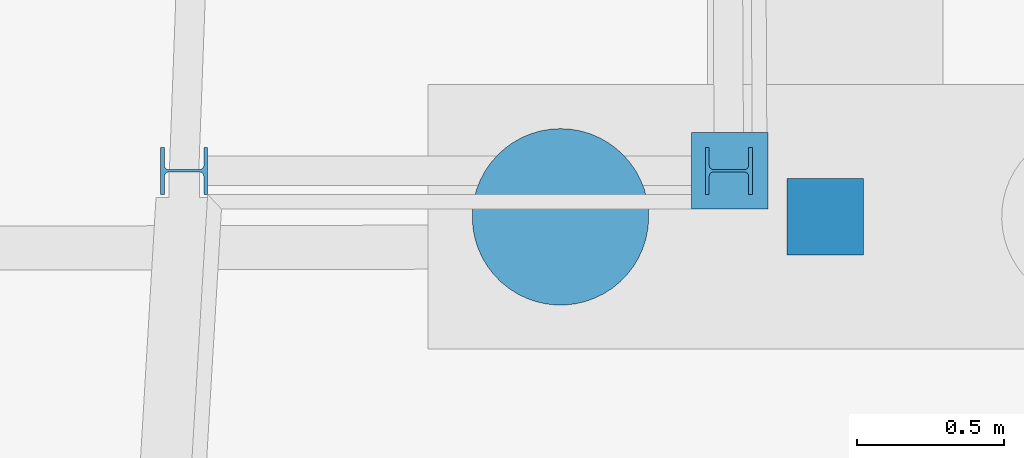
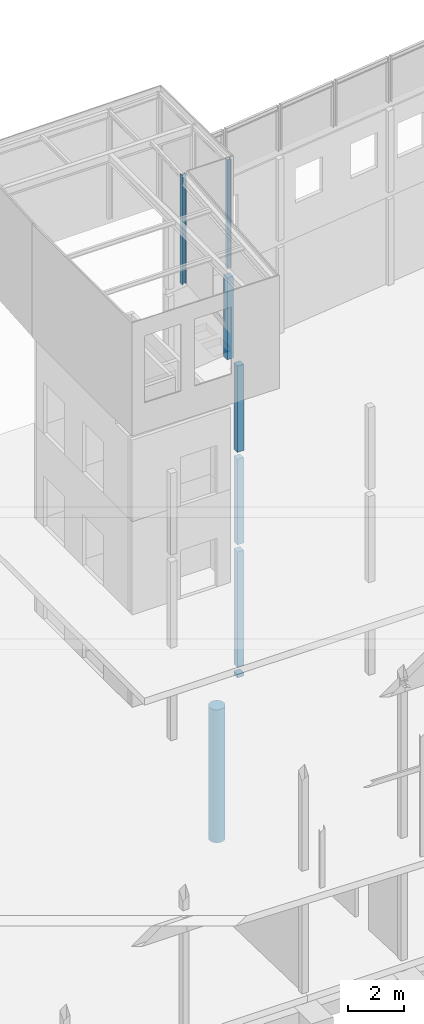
# One storey, part 46 of 82: 7 columns.
"""IFC2X3 building model written with IfcOpenShell, lengths in millimetres."""

from ifc_helpers import new_model, si_unit, frame, frame_2d, origin_with_axes, place, context, subcontext, project, spatial, polyline, rectangle, circle, i_section, outline, extrude, boolean, material, type_object, element, save


model = new_model("IFC2X3")

# Units and contexts
model_context = context("Model", 3, precision=1e-05, world=origin_with_axes())
body_context = subcontext(model_context, "Body", "Model", "MODEL_VIEW")
ifc_project = project(units=[si_unit("LENGTHUNIT", "METRE", prefix="MILLI"), si_unit("AREAUNIT", "SQUARE_METRE"), si_unit("VOLUMEUNIT", "CUBIC_METRE"), si_unit("MASSUNIT", "GRAM", prefix="KILO"), si_unit("TIMEUNIT", "SECOND"), si_unit("PLANEANGLEUNIT", "RADIAN"), si_unit("SOLIDANGLEUNIT", "STERADIAN"), si_unit("THERMODYNAMICTEMPERATUREUNIT", "DEGREE_CELSIUS"), si_unit("LUMINOUSINTENSITYUNIT", "LUMEN")], contexts=[model_context])

# Site, building, storey
site_placement = place(None, origin_with_axes())
site = spatial("IfcSite", under=ifc_project, at=site_placement, Name="Undefined", CompositionType="ELEMENT")
building_placement = place(site_placement, origin_with_axes())
building = spatial("IfcBuilding", under=site, at=building_placement, Name="Undefined", CompositionType="ELEMENT")
storey_placement = place(building_placement, origin_with_axes())
storey = spatial("IfcBuildingStorey", under=building, at=storey_placement, Name="Undefined", CompositionType="ELEMENT", Elevation=0.0)

# Columns
ifc_material_1 = material(Name="CONCRETE/C25/30")
column_type_1 = type_object("IfcColumnType", Name="260*260", PredefinedType="NOTDEFINED")
column_1_placement = place(storey_placement, frame((37025.8533690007, 18756.6625399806, 13330.0), z_axis=(0.0, 0.0, 1.0), x_axis=(1.0, 0.0, 0.0)))
element("IfcColumn", 1, at=column_1_placement, inside=storey, type_object=column_type_1, material=ifc_material_1, Name="POTEAU", ObjectType="260*260", context=body_context, shape_type="SweptSolid", body=[
    extrude(rectangle(XDim=260.0, YDim=260.0, at=frame_2d((5.17284206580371e-08, 4.49290382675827e-10), x_axis=(1.0, 0.0))), frame((0.0, 0.0, 3529.99999999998), z_axis=(0.0, -6.50000002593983e-08, -0.999999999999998), x_axis=(-1.0, 0.0, 0.0)), (0.0, 0.0, 1.0), 3530.0),
])
column_2_placement = place(storey_placement, frame((37349.9984740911, 18599.9998778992, 9305.0), z_axis=(0.0, 0.0, 1.0), x_axis=(1.0, 0.0, 0.0)))
element("IfcColumn", 2, at=column_2_placement, inside=storey, type_object=column_type_1, material=ifc_material_1, Name="POTEAU", ObjectType="260*260", context=body_context, shape_type="SweptSolid", body=[
    extrude(rectangle(XDim=260.0, YDim=260.0, at=frame_2d((5.17284206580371e-08, 4.49290382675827e-10), x_axis=(1.0, 0.0))), frame((0.0, 0.0, 3725.0), z_axis=(0.0, -6.50000002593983e-08, -0.999999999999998), x_axis=(-1.0, 0.0, 0.0)), (0.0, 0.0, 1.0), 3725.0),
])
column_3_placement = place(storey_placement, frame((37349.9984740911, 18599.9998778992, 5300.0), z_axis=(0.0, 0.0, 1.0), x_axis=(1.0, 0.0, 0.0)))
element("IfcColumn", 3, at=column_3_placement, inside=storey, type_object=column_type_1, material=ifc_material_1, Name="POTEAU", ObjectType="260*260", context=body_context, shape_type="SweptSolid", body=[
    extrude(rectangle(XDim=260.0, YDim=260.0, at=frame_2d((5.17284206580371e-08, 4.49290382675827e-10), x_axis=(1.0, 0.0))), frame((0.0, 0.0, 3705.00000000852), z_axis=(0.0, -6.50000002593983e-08, -0.999999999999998), x_axis=(-1.0, 0.0, 0.0)), (0.0, 0.0, 1.0), 3705.0),
])
column_4_placement = place(storey_placement, frame((37349.9984740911, 18599.9998778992, -449.999511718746), z_axis=(0.0, 0.0, 1.0), x_axis=(1.0, 0.0, 0.0)))
solid = boolean("DIFFERENCE", boolean("DIFFERENCE", boolean("DIFFERENCE", boolean("DIFFERENCE", boolean("DIFFERENCE", boolean("DIFFERENCE", boolean("DIFFERENCE", extrude(outline(polyline([(5.17284206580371e-08, 4.49290382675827e-10), (32345.1562506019, -1.76320384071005e-07), (32344.6601568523, 166.703918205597), (32214.6601568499, 166.508437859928), (32214.2734381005, 426.509856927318), (32411.6230474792, 426.803832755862), (32603.3027350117, 11942.0273434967), (28578.3359380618, 11936.009765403), (28567.9902349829, 18856.1484373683), (32592.9570319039, 18862.1640622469), (32172.777344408, 23603.5253903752), (32087.0214850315, 23604.4042966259), (32088.5136725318, 23749.3945310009), (24340.6210943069, 23826.5468748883), (24321.7402349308, 23682.7792967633), (24063.9550786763, 23716.6445311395), (24082.8398443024, 23860.4101561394), (19465.5253910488, 24467.996093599), (19445.7128910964, 24323.314453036), (19187.9277348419, 24357.1777342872), (19206.822266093, 24500.9414061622), (14589.0634768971, 25107.5488280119), (14570.1796878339, 24963.7968748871), (14312.3945315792, 24997.6601561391), (14331.2783206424, 25141.4140623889), (9713.53125024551, 25748.0195311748), (9694.64550805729, 25604.253906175), (9436.86035180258, 25638.117187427), (9455.74609399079, 25781.8828124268), (4836.2856446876, 26388.7128905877), (4817.39941421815, 26244.9433593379), (4559.61425796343, 26278.8066405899), (4578.49804702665, 26422.5566405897), (-996.265380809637, 27154.8984375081), (-1015.15087885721, 27011.1347656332), (-1272.93615718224, 27044.9980468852), (-1254.05065913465, 27188.7636718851), (-2705.26293943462, 27379.4003906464), (-3655.51074220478, 20183.0703125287), (-4149.9580078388, 20252.4238281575), (-4152.80126955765, 20232.6035156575), (-4435.00634768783, 20273.0839844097), (-6420.11279305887, 5033.56640628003), (-6178.29785164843, 5001.66943362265), (-6212.2993164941, 4743.90234377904), (-6453.69677743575, 4775.74414065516), (-6630.10302745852, 3421.48608403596), (-135.489227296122, 248.150680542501), (-206.630264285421, 102.332542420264), (5.17284206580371e-08, 4.49290382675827e-10)])), frame((24244.8833076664, -18848.3530590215, 449.999511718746), z_axis=(0.0, -6.50000002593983e-08, -0.999999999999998), x_axis=(-0.9999988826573, -0.0014948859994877, 0.0)), (0.0, 0.0, 1.0), 300.0), extrude(rectangle(XDim=260.0, YDim=260.0, at=frame_2d((5.17284206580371e-08, 4.49290382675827e-10), x_axis=(1.0, 0.0))), frame((29789.992737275, -9310.47032145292, 5449.99951171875), z_axis=(0.0, -6.50000002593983e-08, -0.999999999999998), x_axis=(0.132256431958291, -0.991215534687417, 0.0)), (0.0, 0.0, 1.0), 5450.0)), extrude(rectangle(XDim=260.0, YDim=260.0, at=frame_2d((5.17284206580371e-08, 4.49290382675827e-10), x_axis=(1.0, 0.0))), frame((29168.4102900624, -4651.95533571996, 5449.99951171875), z_axis=(0.0, -6.50000002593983e-08, -0.999999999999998), x_axis=(0.132256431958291, -0.991215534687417, 0.0)), (0.0, 0.0, 1.0), 5450.0)), extrude(rectangle(XDim=260.0, YDim=260.0, at=frame_2d((5.17284206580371e-08, 4.49290382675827e-10), x_axis=(1.0, 0.0))), frame((28546.8182300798, 6.6541648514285, 5449.99951171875), z_axis=(0.0, -6.50000002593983e-08, -0.999999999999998), x_axis=(0.132256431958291, -0.991215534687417, 0.0)), (0.0, 0.0, 1.0), 5450.0)), extrude(rectangle(XDim=260.0, YDim=260.0, at=frame_2d((5.17284206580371e-08, 4.49290382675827e-10), x_axis=(1.0, 0.0))), frame((26287.5770418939, 1302.10278158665, 5449.99951171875), z_axis=(0.0, -6.50000002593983e-08, -0.999999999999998), x_axis=(-0.139177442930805, 0.990267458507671, 0.0)), (0.0, 0.0, 1.0), 5450.0)), extrude(rectangle(XDim=260.0, YDim=260.0, at=frame_2d((5.17284206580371e-08, 4.49290382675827e-10), x_axis=(1.0, 0.0))), frame((26287.5770418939, 1302.10278158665, 5449.99951171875), z_axis=(0.0, -6.50000002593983e-08, -0.999999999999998), x_axis=(-0.139177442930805, 0.990267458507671, 0.0)), (0.0, 0.0, 1.0), 5450.0)), extrude(outline(polyline([(5.17284206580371e-08, 4.49290382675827e-10), (2725.00000000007, 0.0), (2725.0, 675.0), (9900.0, 675.0), (9900.0, 750.0), (12325.0, 750.0), (12325.0, 5549.80322265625), (9900.0, 5550.0), (9900.0, 5625.0), (0.0, 5625.0), (5.17284206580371e-08, 4.49290382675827e-10)])), frame((9750.00152588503, -3824.9998779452, 452.499511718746), z_axis=(0.0, -6.50000002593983e-08, -0.999999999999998), x_axis=(1.0, 0.0, 0.0)), (0.0, 0.0, 1.0), 305.0)), extrude(outline(polyline([(5.17284206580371e-08, 4.49290382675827e-10), (100.0, 0.0), (100.0, 4700.0), (0.0, 4700.0), (5.17284206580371e-08, 4.49290382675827e-10)])), frame((23484.2842975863, -4624.99987796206, 452.499511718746), z_axis=(0.0, -6.50000002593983e-08, -0.999999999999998), x_axis=(1.0, 0.0, 0.0)), (0.0, 0.0, 1.0), 305.0))
element("IfcColumn", 4, at=column_4_placement, inside=storey, type_object=column_type_1, material=ifc_material_1, Name="POTEAU", ObjectType="260*260", context=body_context, shape_type="CSG", body=[
    boolean("DIFFERENCE", extrude(rectangle(XDim=260.0, YDim=260.0, at=frame_2d((5.17284206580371e-08, 4.49290382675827e-10), x_axis=(1.0, 0.0))), frame((0.0, 0.0, 5449.9995117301), z_axis=(0.0, -6.50000002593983e-08, -0.999999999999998), x_axis=(-1.0, 0.0, 0.0)), (0.0, 0.0, 1.0), 5450.0), solid),
])
ifc_material_2 = material(Name="STEEL/S275JR")
column_type_2 = type_object("IfcColumnType", Name="HEB160", PredefinedType="NOTDEFINED")
for number, where, z_axis, x_axis, name in (
    (5, (35170.4450535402, 18756.4929699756, 17160.0), (0.0, 0.0, 1.0), (1.0, 0.0, 0.0), "POTEAU"),
    (6, (37022.640100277, 18756.6622677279, 17160.0), (0.0, 0.0, 1.0), (1.0, 0.0, 0.0), "POTEAU"),
):
    element("IfcColumn", number, at=place(storey_placement, frame(where, z_axis=z_axis, x_axis=x_axis)), inside=storey, type_object=column_type_2, material=ifc_material_2, Name=name, ObjectType="HEB160", context=body_context, shape_type="SweptSolid", body=[
        extrude(i_section(OverallWidth=160.0, OverallDepth=160.0, WebThickness=8.0, FlangeThickness=13.0, FilletRadius=15.0, at=frame_2d((5.17284206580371e-08, 4.49290382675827e-10), x_axis=(1.0, 0.0))), frame((0.0, 0.0, 4735.0), z_axis=(0.0, -6.50000002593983e-08, -0.999999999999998), x_axis=(-2.77555756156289e-17, -1.0, 0.0)), (0.0, 0.0, 1.0), 4735.0),
    ])
column_type_3 = type_object("IfcColumnType", Name="D600", PredefinedType="NOTDEFINED")
column_5_placement = place(storey_placement, frame((36449.9999999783, 18599.9999999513, -7175.0), z_axis=(0.0, 0.0, 1.0), x_axis=(1.0, 0.0, 0.0)))
element("IfcColumn", 7, at=column_5_placement, inside=storey, type_object=column_type_3, material=ifc_material_1, Name="PIEU", ObjectType="D600", context=body_context, shape_type="SweptSolid", body=[
    extrude(circle(Radius=300.0, at=frame_2d((5.17284206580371e-08, 4.49290382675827e-10), x_axis=(1.0, 0.0))), frame((0.0, 0.0, 5750.0), z_axis=(0.0, -6.50000002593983e-08, -0.999999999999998), x_axis=(0.0, 1.0, 0.0)), (0.0, 0.0, 1.0), 5750.0),
])

save(model, "model.ifc")
